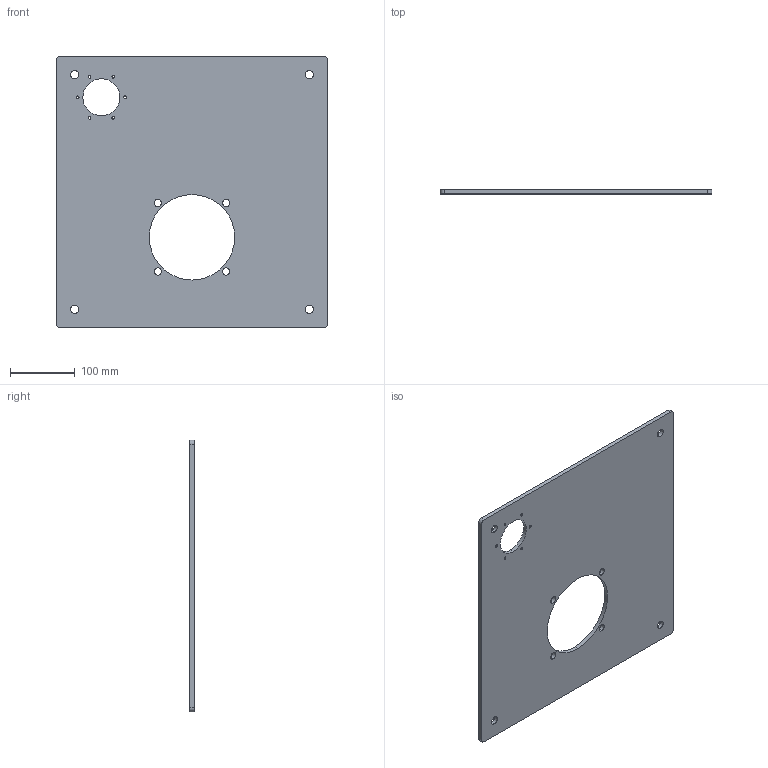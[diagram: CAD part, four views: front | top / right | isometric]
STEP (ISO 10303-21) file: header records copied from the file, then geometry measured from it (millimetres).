
FILE_DESCRIPTION (( 'STEP AP203' ), '1' );
FILE_NAME ('TVL-937-STEP.STEP', '2026-02-11T20:13:20', ( '' ), ( '' ), 'SwSTEP 2.0', 'SolidWorks 2025', '' );
FILE_SCHEMA (( 'CONFIG_CONTROL_DESIGN' ));
Length unit declared in the file: inch
Products named in the file (1): TVL-937-STEP
Bounding box: 419.1 x 6.35 x 419.1 mm (x, y, z)
Volume: 1006052.4 mm3; surface area: 333600.1 mm2
Topology: 1 solids, 1 shells, 42 faces, 120 edges, 80 vertices
Faces by surface type: cylinder 36, plane 6
Entity records: 1559 total; most frequent: DIRECTION 278, CARTESIAN_POINT 243, ORIENTED_EDGE 240, EDGE_CURVE 120, AXIS2_PLACEMENT_3D 115, VERTEX_POINT 80, EDGE_LOOP 74, CIRCLE 72
